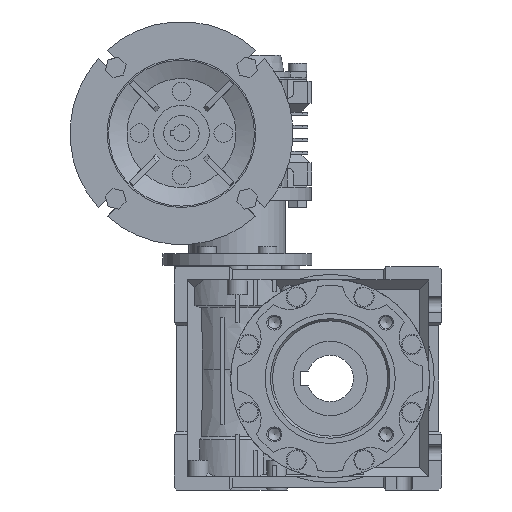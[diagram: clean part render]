
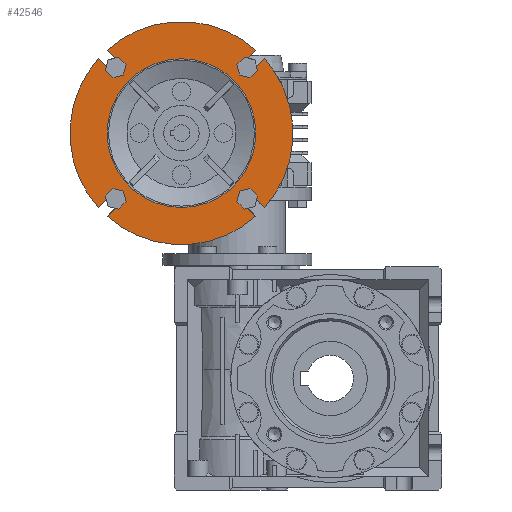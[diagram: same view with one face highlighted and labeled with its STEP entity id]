
A CAD part, left-side view. The second image highlights one B-rep face of the part: STEP entity #42546.
In plain terms, the highlighted planar face has unit normal (-1, 0, 0) as drawn and (1, 0, 0) by its records, which use the part's own axes.
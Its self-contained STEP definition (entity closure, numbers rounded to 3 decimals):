
#1314=PLANE('',#45353);
#4670=LINE('',#63276,#7833);
#4671=LINE('',#63277,#7834);
#4672=LINE('',#63281,#7835);
#4673=LINE('',#63282,#7836);
#4674=LINE('',#63286,#7837);
#4675=LINE('',#63287,#7838);
#4676=LINE('',#63291,#7839);
#4677=LINE('',#63292,#7840);
#7833=VECTOR('',#53615,1000.);
#7834=VECTOR('',#53616,1000.);
#7835=VECTOR('',#53619,1000.);
#7836=VECTOR('',#53620,1000.);
#7837=VECTOR('',#53623,1000.);
#7838=VECTOR('',#53624,1000.);
#7839=VECTOR('',#53627,1000.);
#7840=VECTOR('',#53628,1000.);
#16176=ORIENTED_EDGE('',*,*,#20869,.F.);
#16177=ORIENTED_EDGE('',*,*,#20870,.F.);
#16178=ORIENTED_EDGE('',*,*,#20871,.T.);
#16179=ORIENTED_EDGE('',*,*,#20774,.T.);
#16180=ORIENTED_EDGE('',*,*,#20872,.T.);
#16181=ORIENTED_EDGE('',*,*,#20873,.F.);
#16182=ORIENTED_EDGE('',*,*,#20874,.T.);
#16183=ORIENTED_EDGE('',*,*,#20784,.T.);
#16184=ORIENTED_EDGE('',*,*,#20875,.T.);
#16185=ORIENTED_EDGE('',*,*,#20876,.F.);
#16186=ORIENTED_EDGE('',*,*,#20877,.T.);
#16187=ORIENTED_EDGE('',*,*,#20780,.T.);
#16188=ORIENTED_EDGE('',*,*,#20878,.T.);
#16189=ORIENTED_EDGE('',*,*,#20879,.F.);
#16190=ORIENTED_EDGE('',*,*,#20880,.T.);
#16191=ORIENTED_EDGE('',*,*,#20867,.T.);
#16192=ORIENTED_EDGE('',*,*,#20881,.T.);
#20774=EDGE_CURVE('',#23815,#23816,#24925,.T.);
#20780=EDGE_CURVE('',#23822,#23821,#24928,.T.);
#20784=EDGE_CURVE('',#23826,#23825,#24930,.T.);
#20867=EDGE_CURVE('',#23899,#23898,#24943,.T.);
#20869=EDGE_CURVE('',#23900,#23900,#24944,.T.);
#20870=EDGE_CURVE('',#23901,#23902,#24945,.T.);
#20871=EDGE_CURVE('',#23901,#23815,#4670,.T.);
#20872=EDGE_CURVE('',#23816,#23903,#4671,.T.);
#20873=EDGE_CURVE('',#23904,#23903,#24946,.T.);
#20874=EDGE_CURVE('',#23904,#23826,#4672,.T.);
#20875=EDGE_CURVE('',#23825,#23905,#4673,.T.);
#20876=EDGE_CURVE('',#23906,#23905,#24947,.T.);
#20877=EDGE_CURVE('',#23906,#23822,#4674,.T.);
#20878=EDGE_CURVE('',#23821,#23907,#4675,.T.);
#20879=EDGE_CURVE('',#23908,#23907,#24948,.T.);
#20880=EDGE_CURVE('',#23908,#23899,#4676,.T.);
#20881=EDGE_CURVE('',#23898,#23902,#4677,.T.);
#23815=VERTEX_POINT('',#63046);
#23816=VERTEX_POINT('',#63047);
#23821=VERTEX_POINT('',#63058);
#23822=VERTEX_POINT('',#63060);
#23825=VERTEX_POINT('',#63067);
#23826=VERTEX_POINT('',#63069);
#23898=VERTEX_POINT('',#63266);
#23899=VERTEX_POINT('',#63268);
#23900=VERTEX_POINT('',#63272);
#23901=VERTEX_POINT('',#63274);
#23902=VERTEX_POINT('',#63275);
#23903=VERTEX_POINT('',#63278);
#23904=VERTEX_POINT('',#63280);
#23905=VERTEX_POINT('',#63283);
#23906=VERTEX_POINT('',#63285);
#23907=VERTEX_POINT('',#63288);
#23908=VERTEX_POINT('',#63290);
#24925=CIRCLE('',#45319,60.);
#24928=CIRCLE('',#45323,60.);
#24930=CIRCLE('',#45326,60.);
#24943=CIRCLE('',#45352,60.);
#24944=CIRCLE('',#45354,40.);
#24945=CIRCLE('',#45355,3.25);
#24946=CIRCLE('',#45356,3.25);
#24947=CIRCLE('',#45357,3.25);
#24948=CIRCLE('',#45358,3.25);
#26789=EDGE_LOOP('',(#16176));
#26790=EDGE_LOOP('',(#16177,#16178,#16179,#16180,#16181,#16182,#16183,#16184,
#16185,#16186,#16187,#16188,#16189,#16190,#16191,#16192));
#28773=FACE_BOUND('',#26789,.T.);
#28774=FACE_BOUND('',#26790,.T.);
#42546=ADVANCED_FACE('',(#28773,#28774),#1314,.F.);
#45319=AXIS2_PLACEMENT_3D('',#63045,#53483,#53484);
#45323=AXIS2_PLACEMENT_3D('',#63059,#53494,#53495);
#45326=AXIS2_PLACEMENT_3D('',#63068,#53502,#53503);
#45352=AXIS2_PLACEMENT_3D('',#63267,#53606,#53607);
#45353=AXIS2_PLACEMENT_3D('',#63270,#53609,#53610);
#45354=AXIS2_PLACEMENT_3D('',#63271,#53611,#53612);
#45355=AXIS2_PLACEMENT_3D('',#63273,#53613,#53614);
#45356=AXIS2_PLACEMENT_3D('',#63279,#53617,#53618);
#45357=AXIS2_PLACEMENT_3D('',#63284,#53621,#53622);
#45358=AXIS2_PLACEMENT_3D('',#63289,#53625,#53626);
#53483=DIRECTION('',(1.,0.,0.));
#53484=DIRECTION('',(0.,0.,-1.));
#53494=DIRECTION('',(1.,0.,0.));
#53495=DIRECTION('',(0.,0.,-1.));
#53502=DIRECTION('',(1.,0.,0.));
#53503=DIRECTION('',(0.,0.,-1.));
#53606=DIRECTION('',(1.,0.,0.));
#53607=DIRECTION('',(0.,0.,-1.));
#53609=DIRECTION('',(-1.,0.,0.));
#53610=DIRECTION('',(0.,0.,1.));
#53611=DIRECTION('',(1.,0.,0.));
#53612=DIRECTION('',(0.,0.,-1.));
#53613=DIRECTION('',(1.,0.,0.));
#53614=DIRECTION('',(0.,0.,-1.));
#53615=DIRECTION('',(0.,0.707,0.707));
#53616=DIRECTION('',(0.,0.707,-0.707));
#53617=DIRECTION('',(1.,0.,0.));
#53618=DIRECTION('',(0.,0.,-1.));
#53619=DIRECTION('',(0.,-0.707,0.707));
#53620=DIRECTION('',(0.,0.707,0.707));
#53621=DIRECTION('',(1.,0.,0.));
#53622=DIRECTION('',(0.,0.,-1.));
#53623=DIRECTION('',(0.,-0.707,-0.707));
#53624=DIRECTION('',(0.,-0.707,0.707));
#53625=DIRECTION('',(1.,0.,0.));
#53626=DIRECTION('',(0.,0.,-1.));
#53627=DIRECTION('',(0.,0.707,-0.707));
#53628=DIRECTION('',(0.,-0.707,-0.707));
#63045=CARTESIAN_POINT('',(20.,0.,0.));
#63046=CARTESIAN_POINT('',(20.,40.066,44.662));
#63047=CARTESIAN_POINT('',(20.,-40.066,44.662));
#63058=CARTESIAN_POINT('',(20.,40.066,-44.662));
#63059=CARTESIAN_POINT('',(20.,0.,0.));
#63060=CARTESIAN_POINT('',(20.,-40.066,-44.662));
#63067=CARTESIAN_POINT('',(20.,-44.662,-40.066));
#63068=CARTESIAN_POINT('',(20.,0.,0.));
#63069=CARTESIAN_POINT('',(20.,-44.662,40.066));
#63266=CARTESIAN_POINT('',(20.,44.662,40.066));
#63267=CARTESIAN_POINT('',(20.,0.,0.));
#63268=CARTESIAN_POINT('',(20.,44.662,-40.066));
#63270=CARTESIAN_POINT('',(20.,60.,0.));
#63271=CARTESIAN_POINT('',(20.,0.,0.));
#63272=CARTESIAN_POINT('',(20.,0.,-40.));
#63273=CARTESIAN_POINT('',(20.,35.355,35.355));
#63274=CARTESIAN_POINT('',(20.,33.057,37.653));
#63275=CARTESIAN_POINT('',(20.,37.653,33.057));
#63276=CARTESIAN_POINT('',(20.,33.057,37.653));
#63277=CARTESIAN_POINT('',(20.,-40.066,44.662));
#63278=CARTESIAN_POINT('',(20.,-33.057,37.653));
#63279=CARTESIAN_POINT('',(20.,-35.355,35.355));
#63280=CARTESIAN_POINT('',(20.,-37.653,33.057));
#63281=CARTESIAN_POINT('',(20.,-37.653,33.057));
#63282=CARTESIAN_POINT('',(20.,-44.662,-40.066));
#63283=CARTESIAN_POINT('',(20.,-37.653,-33.057));
#63284=CARTESIAN_POINT('',(20.,-35.355,-35.355));
#63285=CARTESIAN_POINT('',(20.,-33.057,-37.653));
#63286=CARTESIAN_POINT('',(20.,-33.057,-37.653));
#63287=CARTESIAN_POINT('',(20.,40.066,-44.662));
#63288=CARTESIAN_POINT('',(20.,33.057,-37.653));
#63289=CARTESIAN_POINT('',(20.,35.355,-35.355));
#63290=CARTESIAN_POINT('',(20.,37.653,-33.057));
#63291=CARTESIAN_POINT('',(20.,37.653,-33.057));
#63292=CARTESIAN_POINT('',(20.,44.662,40.066));
